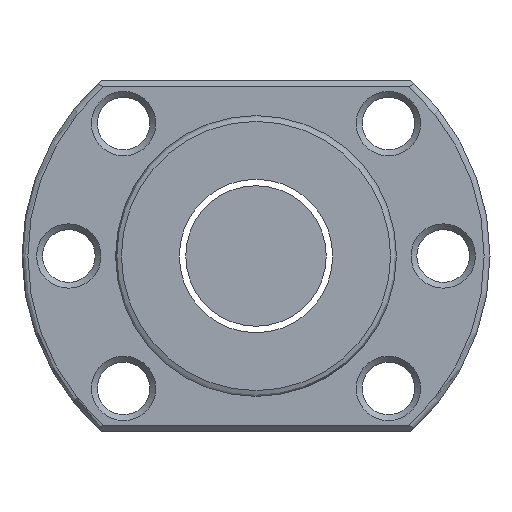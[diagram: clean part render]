
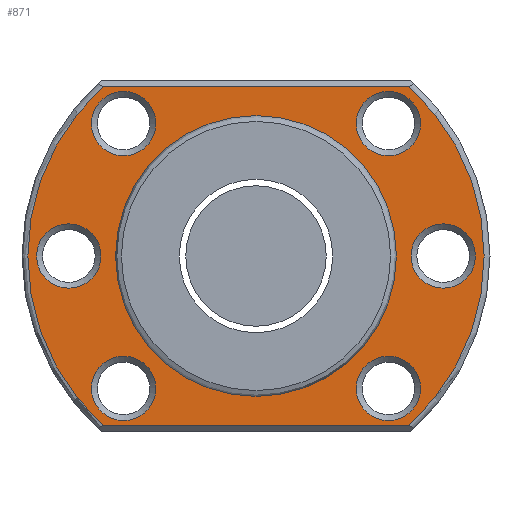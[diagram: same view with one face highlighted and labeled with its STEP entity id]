
A CAD part, left-side view. The second image highlights one B-rep face of the part: STEP entity #871.
In plain terms, the highlighted planar face has unit normal (-1, 0, 0).
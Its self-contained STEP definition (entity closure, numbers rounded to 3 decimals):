
#14 = VERTEX_POINT ( 'NONE', #649 ) ;
#16 = ORIENTED_EDGE ( 'NONE', *, *, #178, .T. ) ;
#24 = ORIENTED_EDGE ( 'NONE', *, *, #1027, .T. ) ;
#33 = VERTEX_POINT ( 'NONE', #997 ) ;
#41 = DIRECTION ( 'NONE',  ( 0., 0., -1. ) ) ;
#42 = DIRECTION ( 'NONE',  ( 0., 0., 1. ) ) ;
#48 = FACE_BOUND ( 'NONE', #245, .T. ) ;
#88 = EDGE_LOOP ( 'NONE', ( #774 ) ) ;
#105 = VERTEX_POINT ( 'NONE', #911 ) ;
#117 = CIRCLE ( 'NONE', #913, 2.75 ) ;
#178 = EDGE_CURVE ( 'NONE', #14, #14, #832, .T. ) ;
#192 = CARTESIAN_POINT ( 'NONE',  ( -37., -16., 0. ) ) ;
#193 = DIRECTION ( 'NONE',  ( 0., 0., 1. ) ) ;
#195 = AXIS2_PLACEMENT_3D ( 'NONE', #192, #990, #546 ) ;
#198 = CARTESIAN_POINT ( 'NONE',  ( -37., 0., -12. ) ) ;
#212 = DIRECTION ( 'NONE',  ( 1., 0., 0. ) ) ;
#216 = FACE_BOUND ( 'NONE', #788, .T. ) ;
#219 = CIRCLE ( 'NONE', #372, 2.75 ) ;
#223 = FACE_BOUND ( 'NONE', #693, .T. ) ;
#226 = CARTESIAN_POINT ( 'NONE',  ( -37., 0., 0. ) ) ;
#245 = EDGE_LOOP ( 'NONE', ( #868 ) ) ;
#262 = ORIENTED_EDGE ( 'NONE', *, *, #807, .T. ) ;
#291 = CARTESIAN_POINT ( 'NONE',  ( -37., -13.038, 14.5 ) ) ;
#295 = VERTEX_POINT ( 'NONE', #291 ) ;
#297 = CARTESIAN_POINT ( 'NONE',  ( -37., 20., 0. ) ) ;
#302 = DIRECTION ( 'NONE',  ( 1., 0., 0. ) ) ;
#306 = CARTESIAN_POINT ( 'NONE',  ( -37., 20., 14.5 ) ) ;
#322 = CIRCLE ( 'NONE', #780, 2.75 ) ;
#341 = EDGE_CURVE ( 'NONE', #365, #611, #514, .T. ) ;
#347 = ORIENTED_EDGE ( 'NONE', *, *, #556, .T. ) ;
#354 = ORIENTED_EDGE ( 'NONE', *, *, #375, .T. ) ;
#362 = CARTESIAN_POINT ( 'NONE',  ( -37., 11.314, 11.314 ) ) ;
#364 = CIRCLE ( 'NONE', #443, 19.5 ) ;
#365 = VERTEX_POINT ( 'NONE', #1034 ) ;
#372 = AXIS2_PLACEMENT_3D ( 'NONE', #824, #590, #509 ) ;
#374 = EDGE_CURVE ( 'NONE', #1094, #1094, #1109, .T. ) ;
#375 = EDGE_CURVE ( 'NONE', #33, #33, #322, .T. ) ;
#385 = FACE_BOUND ( 'NONE', #889, .T. ) ;
#395 = DIRECTION ( 'NONE',  ( -1., 0., 0. ) ) ;
#397 = FACE_BOUND ( 'NONE', #88, .T. ) ;
#408 = CARTESIAN_POINT ( 'NONE',  ( -37., -11.314, -11.314 ) ) ;
#417 = AXIS2_PLACEMENT_3D ( 'NONE', #408, #302, #42 ) ;
#443 = AXIS2_PLACEMENT_3D ( 'NONE', #592, #395, #844 ) ;
#463 = CARTESIAN_POINT ( 'NONE',  ( -37., -16., 2.75 ) ) ;
#479 = VERTEX_POINT ( 'NONE', #569 ) ;
#509 = DIRECTION ( 'NONE',  ( 0., 0., 1. ) ) ;
#514 = CIRCLE ( 'NONE', #646, 19.5 ) ;
#523 = LINE ( 'NONE', #678, #986 ) ;
#540 = DIRECTION ( 'NONE',  ( 0., -1., 0. ) ) ;
#546 = DIRECTION ( 'NONE',  ( 0., 0., 1. ) ) ;
#556 = EDGE_CURVE ( 'NONE', #479, #479, #117, .T. ) ;
#568 = DIRECTION ( 'NONE',  ( 0., 0., 1. ) ) ;
#569 = CARTESIAN_POINT ( 'NONE',  ( -37., 11.314, 14.064 ) ) ;
#588 = VECTOR ( 'NONE', #1020, 1000. ) ;
#590 = DIRECTION ( 'NONE',  ( 1., 0., 0. ) ) ;
#592 = CARTESIAN_POINT ( 'NONE',  ( -37., 0., 0. ) ) ;
#611 = VERTEX_POINT ( 'NONE', #991 ) ;
#637 = EDGE_CURVE ( 'NONE', #709, #295, #364, .T. ) ;
#646 = AXIS2_PLACEMENT_3D ( 'NONE', #1125, #923, #1119 ) ;
#649 = CARTESIAN_POINT ( 'NONE',  ( -37., -11.314, -8.564 ) ) ;
#655 = DIRECTION ( 'NONE',  ( 0., 0., 1. ) ) ;
#670 = EDGE_LOOP ( 'NONE', ( #16 ) ) ;
#678 = CARTESIAN_POINT ( 'NONE',  ( -37., 20., -14.5 ) ) ;
#693 = EDGE_LOOP ( 'NONE', ( #354 ) ) ;
#694 = ORIENTED_EDGE ( 'NONE', *, *, #1138, .T. ) ;
#696 = ORIENTED_EDGE ( 'NONE', *, *, #374, .T. ) ;
#709 = VERTEX_POINT ( 'NONE', #837 ) ;
#713 = EDGE_CURVE ( 'NONE', #1092, #1092, #768, .T. ) ;
#718 = AXIS2_PLACEMENT_3D ( 'NONE', #726, #1105, #655 ) ;
#726 = CARTESIAN_POINT ( 'NONE',  ( -37., -11.314, 11.314 ) ) ;
#752 = ORIENTED_EDGE ( 'NONE', *, *, #341, .T. ) ;
#753 = PLANE ( 'NONE',  #1005 ) ;
#768 = CIRCLE ( 'NONE', #1015, 12. ) ;
#774 = ORIENTED_EDGE ( 'NONE', *, *, #998, .T. ) ;
#780 = AXIS2_PLACEMENT_3D ( 'NONE', #1017, #212, #568 ) ;
#788 = EDGE_LOOP ( 'NONE', ( #696 ) ) ;
#807 = EDGE_CURVE ( 'NONE', #295, #365, #1114, .T. ) ;
#824 = CARTESIAN_POINT ( 'NONE',  ( -37., 11.314, -11.314 ) ) ;
#827 = CARTESIAN_POINT ( 'NONE',  ( -37., -11.314, 14.064 ) ) ;
#832 = CIRCLE ( 'NONE', #417, 2.75 ) ;
#837 = CARTESIAN_POINT ( 'NONE',  ( -37., -13.038, -14.5 ) ) ;
#840 = FACE_BOUND ( 'NONE', #670, .T. ) ;
#844 = DIRECTION ( 'NONE',  ( 0., 0., 1. ) ) ;
#868 = ORIENTED_EDGE ( 'NONE', *, *, #713, .T. ) ;
#871 = ADVANCED_FACE ( 'NONE', ( #840, #385, #216, #1104, #223, #397, #48, #915 ), #753, .T. ) ;
#881 = ORIENTED_EDGE ( 'NONE', *, *, #637, .T. ) ;
#889 = EDGE_LOOP ( 'NONE', ( #24 ) ) ;
#893 = CIRCLE ( 'NONE', #195, 2.75 ) ;
#901 = DIRECTION ( 'NONE',  ( 1., 0., 0. ) ) ;
#911 = CARTESIAN_POINT ( 'NONE',  ( -37., 11.314, -8.564 ) ) ;
#913 = AXIS2_PLACEMENT_3D ( 'NONE', #362, #901, #193 ) ;
#915 = FACE_OUTER_BOUND ( 'NONE', #961, .T. ) ;
#923 = DIRECTION ( 'NONE',  ( -1., 0., 0. ) ) ;
#961 = EDGE_LOOP ( 'NONE', ( #752, #694, #881, #262 ) ) ;
#986 = VECTOR ( 'NONE', #540, 1000. ) ;
#990 = DIRECTION ( 'NONE',  ( 1., 0., 0. ) ) ;
#991 = CARTESIAN_POINT ( 'NONE',  ( -37., 13.038, -14.5 ) ) ;
#997 = CARTESIAN_POINT ( 'NONE',  ( -37., 16., 2.75 ) ) ;
#998 = EDGE_CURVE ( 'NONE', #105, #105, #219, .T. ) ;
#1005 = AXIS2_PLACEMENT_3D ( 'NONE', #297, #1124, #1016 ) ;
#1015 = AXIS2_PLACEMENT_3D ( 'NONE', #226, #1029, #41 ) ;
#1016 = DIRECTION ( 'NONE',  ( 0., 0., 1. ) ) ;
#1017 = CARTESIAN_POINT ( 'NONE',  ( -37., 16., 0. ) ) ;
#1020 = DIRECTION ( 'NONE',  ( 0., 1., 0. ) ) ;
#1027 = EDGE_CURVE ( 'NONE', #1100, #1100, #893, .T. ) ;
#1029 = DIRECTION ( 'NONE',  ( 1., 0., 0. ) ) ;
#1034 = CARTESIAN_POINT ( 'NONE',  ( -37., 13.038, 14.5 ) ) ;
#1077 = EDGE_LOOP ( 'NONE', ( #347 ) ) ;
#1092 = VERTEX_POINT ( 'NONE', #198 ) ;
#1094 = VERTEX_POINT ( 'NONE', #827 ) ;
#1100 = VERTEX_POINT ( 'NONE', #463 ) ;
#1104 = FACE_BOUND ( 'NONE', #1077, .T. ) ;
#1105 = DIRECTION ( 'NONE',  ( 1., 0., 0. ) ) ;
#1109 = CIRCLE ( 'NONE', #718, 2.75 ) ;
#1114 = LINE ( 'NONE', #306, #588 ) ;
#1119 = DIRECTION ( 'NONE',  ( 0., 0., 1. ) ) ;
#1124 = DIRECTION ( 'NONE',  ( -1., 0., 0. ) ) ;
#1125 = CARTESIAN_POINT ( 'NONE',  ( -37., 0., 0. ) ) ;
#1138 = EDGE_CURVE ( 'NONE', #611, #709, #523, .T. ) ;
